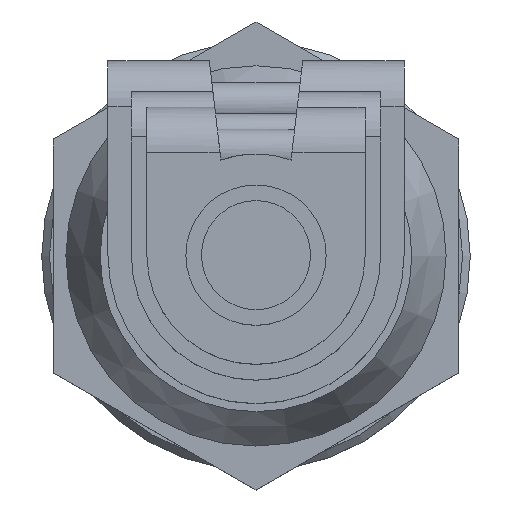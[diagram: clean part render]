
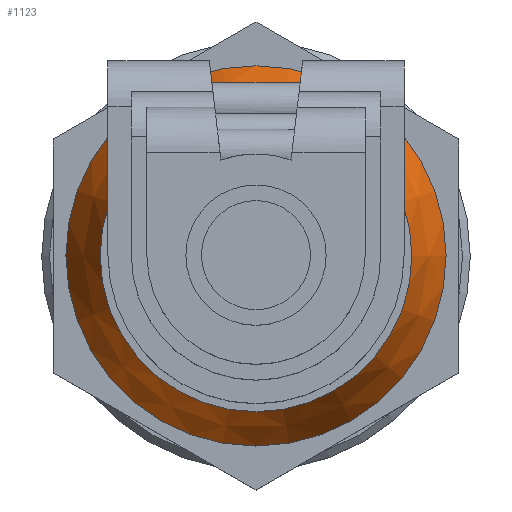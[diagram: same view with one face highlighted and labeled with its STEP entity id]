
A CAD part, top view. The second image highlights one B-rep face of the part: STEP entity #1123.
In plain terms, the highlighted conical face has half-angle 25.56 degrees and reference radius 11.1 mm.
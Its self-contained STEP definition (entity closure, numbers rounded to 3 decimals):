
#296=FACE_BOUND('',#463,.T.);
#351=FACE_OUTER_BOUND('',#462,.T.);
#462=EDGE_LOOP('',(#1010));
#463=EDGE_LOOP('',(#1011));
#530=CIRCLE('',#1264,10.);
#531=CIRCLE('',#1265,12.2);
#623=VERTEX_POINT('',#1964);
#624=VERTEX_POINT('',#1966);
#756=EDGE_CURVE('',#623,#623,#530,.T.);
#757=EDGE_CURVE('',#624,#624,#531,.T.);
#1010=ORIENTED_EDGE('',*,*,#756,.F.);
#1011=ORIENTED_EDGE('',*,*,#757,.F.);
#1059=CONICAL_SURFACE('',#1263,11.1,25.56);
#1123=ADVANCED_FACE('',(#351,#296),#1059,.T.);
#1263=AXIS2_PLACEMENT_3D('',#1963,#1583,#1584);
#1264=AXIS2_PLACEMENT_3D('',#1965,#1585,#1586);
#1265=AXIS2_PLACEMENT_3D('',#1967,#1587,#1588);
#1583=DIRECTION('center_axis',(0.,0.,-1.));
#1584=DIRECTION('ref_axis',(1.,0.,0.));
#1585=DIRECTION('center_axis',(0.,0.,1.));
#1586=DIRECTION('ref_axis',(1.,0.,0.));
#1587=DIRECTION('center_axis',(0.,0.,-1.));
#1588=DIRECTION('ref_axis',(1.,0.,0.));
#1963=CARTESIAN_POINT('Origin',(0.,0.,8.8));
#1964=CARTESIAN_POINT('',(10.,0.,11.1));
#1965=CARTESIAN_POINT('Origin',(0.,0.,11.1));
#1966=CARTESIAN_POINT('',(12.2,0.,6.5));
#1967=CARTESIAN_POINT('Origin',(0.,0.,6.5));
